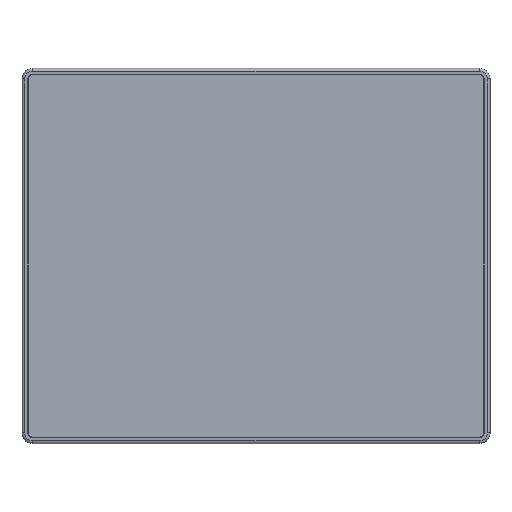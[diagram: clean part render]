
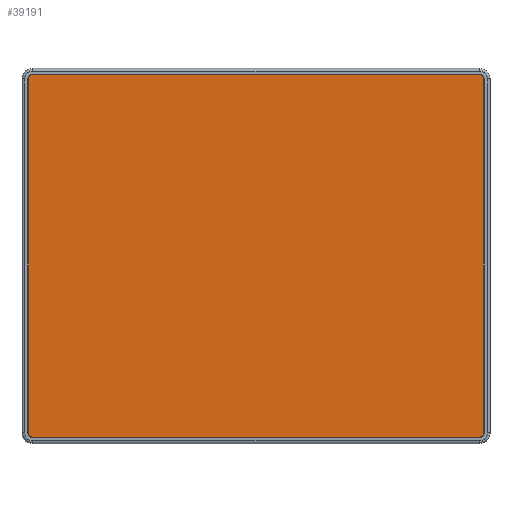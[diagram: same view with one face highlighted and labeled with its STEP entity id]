
A CAD part, top view. The second image highlights one B-rep face of the part: STEP entity #39191.
In plain terms, the highlighted planar face has unit normal (0, 0, 1).
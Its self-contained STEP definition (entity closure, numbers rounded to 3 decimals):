
#3745=FACE_OUTER_BOUND('',#6024,.T.);
#6024=EDGE_LOOP('',(#33916,#33917,#33918,#33919,#33920,#33921,#33922,#33923));
#9245=LINE('',#76241,#12465);
#9246=LINE('',#76245,#12466);
#9247=LINE('',#76249,#12467);
#9248=LINE('',#76253,#12468);
#12465=VECTOR('',#53969,1000.);
#12466=VECTOR('',#53972,1000.);
#12467=VECTOR('',#53975,1000.);
#12468=VECTOR('',#53978,1000.);
#14286=CIRCLE('',#43076,2.85);
#14287=CIRCLE('',#43077,2.85);
#14288=CIRCLE('',#43078,2.85);
#14289=CIRCLE('',#43079,2.85);
#17766=VERTEX_POINT('',#76239);
#17767=VERTEX_POINT('',#76240);
#17768=VERTEX_POINT('',#76242);
#17769=VERTEX_POINT('',#76244);
#17770=VERTEX_POINT('',#76246);
#17771=VERTEX_POINT('',#76248);
#17772=VERTEX_POINT('',#76250);
#17773=VERTEX_POINT('',#76252);
#23156=EDGE_CURVE('',#17766,#17767,#9245,.T.);
#23157=EDGE_CURVE('',#17767,#17768,#14286,.T.);
#23158=EDGE_CURVE('',#17768,#17769,#9246,.T.);
#23159=EDGE_CURVE('',#17769,#17770,#14287,.T.);
#23160=EDGE_CURVE('',#17770,#17771,#9247,.T.);
#23161=EDGE_CURVE('',#17771,#17772,#14288,.T.);
#23162=EDGE_CURVE('',#17772,#17773,#9248,.T.);
#23163=EDGE_CURVE('',#17773,#17766,#14289,.T.);
#33916=ORIENTED_EDGE('',*,*,#23156,.T.);
#33917=ORIENTED_EDGE('',*,*,#23157,.T.);
#33918=ORIENTED_EDGE('',*,*,#23158,.T.);
#33919=ORIENTED_EDGE('',*,*,#23159,.T.);
#33920=ORIENTED_EDGE('',*,*,#23160,.T.);
#33921=ORIENTED_EDGE('',*,*,#23161,.T.);
#33922=ORIENTED_EDGE('',*,*,#23162,.T.);
#33923=ORIENTED_EDGE('',*,*,#23163,.T.);
#34995=PLANE('',#43075);
#39191=ADVANCED_FACE('',(#3745),#34995,.F.);
#43075=AXIS2_PLACEMENT_3D('',#76238,#53967,#53968);
#43076=AXIS2_PLACEMENT_3D('',#76243,#53970,#53971);
#43077=AXIS2_PLACEMENT_3D('',#76247,#53973,#53974);
#43078=AXIS2_PLACEMENT_3D('',#76251,#53976,#53977);
#43079=AXIS2_PLACEMENT_3D('',#76254,#53979,#53980);
#53967=DIRECTION('center_axis',(0.,0.,
-1.));
#53968=DIRECTION('ref_axis',(-1.,0.,0.));
#53969=DIRECTION('',(-1.,0.,0.));
#53970=DIRECTION('center_axis',(0.,0.,
1.));
#53971=DIRECTION('ref_axis',(-1.,0.,0.));
#53972=DIRECTION('',(0.,-1.,0.));
#53973=DIRECTION('center_axis',(0.,0.,
1.));
#53974=DIRECTION('ref_axis',(-1.,0.,0.));
#53975=DIRECTION('',(1.,0.,0.));
#53976=DIRECTION('center_axis',(0.,0.,
1.));
#53977=DIRECTION('ref_axis',(-1.,0.,0.));
#53978=DIRECTION('',(0.,1.,0.));
#53979=DIRECTION('center_axis',(0.,0.,
1.));
#53980=DIRECTION('ref_axis',(-1.,0.,0.));
#76238=CARTESIAN_POINT('Origin',(-129.6,-103.2,1.8));
#76239=CARTESIAN_POINT('',(126.6,103.05,1.8));
#76240=CARTESIAN_POINT('',(-126.6,103.05,1.8));
#76241=CARTESIAN_POINT('',(-126.6,103.05,1.8));
#76242=CARTESIAN_POINT('',(-129.45,100.2,1.8));
#76243=CARTESIAN_POINT('Origin',(-126.6,100.2,1.8));
#76244=CARTESIAN_POINT('',(-129.45,-100.2,1.8));
#76245=CARTESIAN_POINT('',(-129.45,-100.2,1.8));
#76246=CARTESIAN_POINT('',(-126.6,-103.05,1.8));
#76247=CARTESIAN_POINT('Origin',(-126.6,-100.2,1.8));
#76248=CARTESIAN_POINT('',(126.6,-103.05,1.8));
#76249=CARTESIAN_POINT('',(126.6,-103.05,1.8));
#76250=CARTESIAN_POINT('',(129.45,-100.2,1.8));
#76251=CARTESIAN_POINT('Origin',(126.6,-100.2,1.8));
#76252=CARTESIAN_POINT('',(129.45,100.2,1.8));
#76253=CARTESIAN_POINT('',(129.45,100.2,1.8));
#76254=CARTESIAN_POINT('Origin',(126.6,100.2,1.8));
